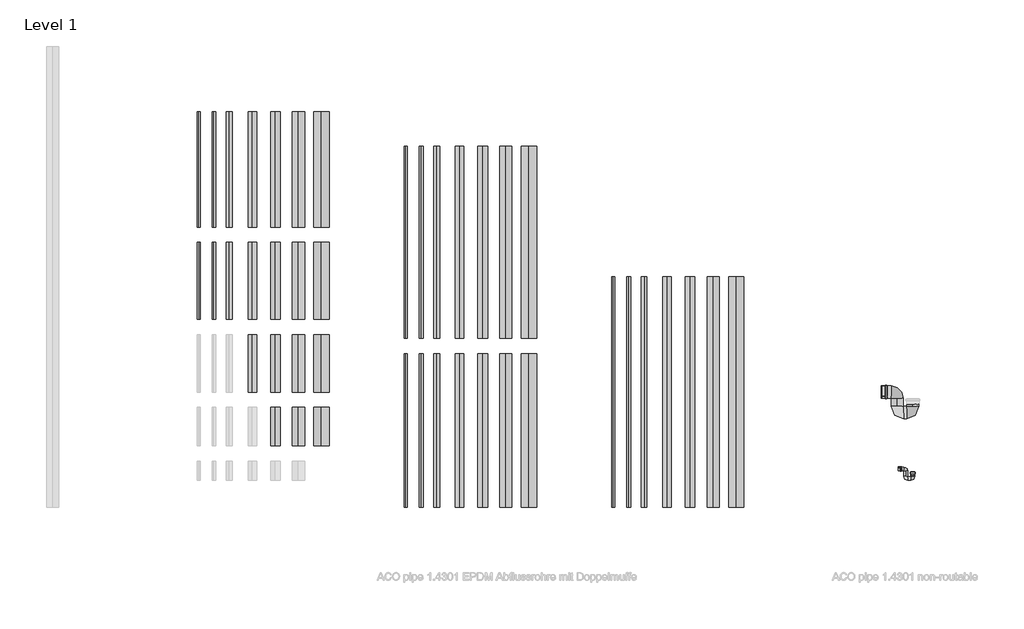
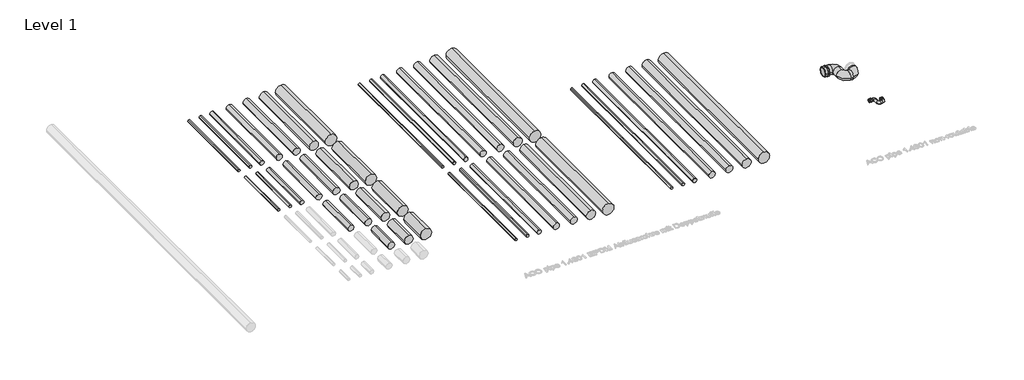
# One storey, part 8 of 13: 42 pipe segments, 5 pipe fittings.
"""IFC4 building model written with IfcOpenShell, lengths in millimetres."""

from ifc_helpers import new_model, si_unit, point, frame, frame_2d, origin, place, context, project, spatial, circle_curve, trimmed, segment, composite_curve, outline, extrude, transform, mapped, element, save
from components import pipe_fitting_1_4301_12527d9e, pipe_fitting_1_4301_4e6f8dee, std_nested_7f6e179d, std_nested_072c2150, std_nested_70f44cd0

model = new_model("IFC4")

# Units and contexts
model_context = context("Model", 3, world=origin())
ifc_project = project(units=[si_unit("LENGTHUNIT", "METRE", prefix="MILLI")], contexts=[model_context])

# Site, building, storey
site = spatial("IfcSite", under=ifc_project)
building = spatial("IfcBuilding", under=site)
storey = spatial("IfcBuildingStorey", under=building, Name="Level 1", Elevation=0.0)

# Pipe fittings
placement = place(None, origin())
pipe_fitting_1_4301_shape = pipe_fitting_1_4301_12527d9e(model_context)
element("IfcPipeFitting", 1, ObjectType="PIF_ST_UN_ACO pipe p-trap_ACO : 1.4301", at=placement, inside=storey, context=model_context, shape_type="MappedRepresentation", body=[
    mapped(pipe_fitting_1_4301_shape, transform((21621.7461061, 480.7885647, 0.0), x_axis=(1.0, 0.0, 0.0), y_axis=(0.0, 1.0, 0.0), z_axis=(0.0, 0.0, 1.0))),
])
pipe_fitting_1_4301_2_shape = pipe_fitting_1_4301_4e6f8dee(model_context)
element("IfcPipeFitting", 2, ObjectType="PIF_ST_UN_ACO pipe p-trap_ACO : 1.4301", at=placement, inside=storey, context=model_context, shape_type="MappedRepresentation", body=[
    mapped(pipe_fitting_1_4301_2_shape, transform((21621.7461061, 1480.7885647, 0.0), x_axis=(1.0, 0.0, 0.0), y_axis=(0.0, 1.0, 0.0), z_axis=(0.0, 0.0, 1.0))),
])
std_nested_shape = std_nested_7f6e179d(model_context)
element("IfcPipeFitting", 3, ObjectType="ZZZ_do not use_PIF_ST_UN_ACO pipe socket_ACO : std (nested)", at=placement, inside=storey, context=model_context, shape_type="MappedRepresentation", body=[
    mapped(std_nested_shape, transform((21434.7461061, 480.7885647, 0.0), x_axis=(-1.0, 0.0, 0.0), y_axis=(0.0, 1.0, 0.0), z_axis=(0.0, 0.0, -1.0))),
])
std_nested_2_shape = std_nested_072c2150(model_context)
element("IfcPipeFitting", 4, ObjectType="ZZZ_do not use_PIF_ST_UN_ACO pipe socket_ACO : std (nested)", at=placement, inside=storey, context=model_context, shape_type="MappedRepresentation", body=[
    mapped(std_nested_2_shape, transform((21621.7461061, 399.7885647, 0.0), x_axis=(0.0, 1.0, 0.0), y_axis=(1.0, 0.0, 0.0), z_axis=(0.0, 0.0, -1.0))),
])
std_nested_3_shape = std_nested_70f44cd0(model_context)
element("IfcPipeFitting", 5, ObjectType="ZZZ_do not use_PIF_ST_UN_ACO pipe socket_ACO : std (nested)", at=placement, inside=storey, context=model_context, shape_type="MappedRepresentation", body=[
    mapped(std_nested_3_shape, transform((21217.7461061, 1480.7885647, 0.0), x_axis=(-1.0, 0.0, 0.0), y_axis=(0.0, 1.0, 0.0), z_axis=(0.0, 0.0, -1.0))),
])

# Pipe segments
element("IfcPipeSegment", 6, ObjectType="ACO pipe 1.4301 OD (complex)", at=placement, inside=storey, context=model_context, shape_type="SweptSolid", body=[
    extrude(outline(composite_curve([segment(trimmed(circle_curve(frame_2d((0.0, 13321.7461061)), 62.5), [point((0.0, 13384.2461061))], [point((62.5, 13321.7461061))], False, "CARTESIAN"), True, "CONTINUOUS"), segment(trimmed(circle_curve(frame_2d((0.0, 13321.7461061)), 62.5), [point((62.5, 13321.7461061))], [point((0.0, 13259.2461061))], False, "CARTESIAN"), True, "CONTINUOUS"), segment(trimmed(circle_curve(frame_2d((0.0, 13321.7461061)), 62.5), [point((0.0, 13259.2461061))], [point((-62.5, 13321.7461061))], False, "CARTESIAN"), True, "CONTINUOUS"), segment(trimmed(circle_curve(frame_2d((0.0, 13321.7461061)), 62.5), [point((-62.5, 13321.7461061))], [point((0.0, 13384.2461061))], False, "CARTESIAN"), True, "CONTINUOUS")], self_intersect=False)), frame((0.0, 780.7885647, 0.0), z_axis=(0.0, 1.0, 0.0), x_axis=(0.0, 0.0, 1.0)), (0.0, 0.0, 1.0), 500.0),
])
element("IfcPipeSegment", 7, ObjectType="ACO pipe 1.4301 OD (complex)", at=placement, inside=storey, context=model_context, shape_type="SweptSolid", body=[
    extrude(outline(composite_curve([segment(trimmed(circle_curve(frame_2d((0.0, 13621.7461061)), 80.0), [point((0.0, 13701.7461061))], [point((80.0, 13621.7461061))], False, "CARTESIAN"), True, "CONTINUOUS"), segment(trimmed(circle_curve(frame_2d((0.0, 13621.7461061)), 80.0), [point((80.0, 13621.7461061))], [point((0.0, 13541.7461061))], False, "CARTESIAN"), True, "CONTINUOUS"), segment(trimmed(circle_curve(frame_2d((0.0, 13621.7461061)), 80.0), [point((0.0, 13541.7461061))], [point((-80.0, 13621.7461061))], False, "CARTESIAN"), True, "CONTINUOUS"), segment(trimmed(circle_curve(frame_2d((0.0, 13621.7461061)), 80.0), [point((-80.0, 13621.7461061))], [point((0.0, 13701.7461061))], False, "CARTESIAN"), True, "CONTINUOUS")], self_intersect=False)), frame((0.0, 780.7885647, 0.0), z_axis=(0.0, 1.0, 0.0), x_axis=(0.0, 0.0, 1.0)), (0.0, 0.0, 1.0), 500.0),
])
element("IfcPipeSegment", 8, ObjectType="ACO pipe 1.4301 OD (complex)", at=placement, inside=storey, context=model_context, shape_type="SweptSolid", body=[
    extrude(outline(composite_curve([segment(trimmed(circle_curve(frame_2d((0.0, 13921.7461061)), 100.0), [point((0.0, 14021.7461061))], [point((100.0, 13921.7461061))], False, "CARTESIAN"), True, "CONTINUOUS"), segment(trimmed(circle_curve(frame_2d((0.0, 13921.7461061)), 100.0), [point((100.0, 13921.7461061))], [point((0.0, 13821.7461061))], False, "CARTESIAN"), True, "CONTINUOUS"), segment(trimmed(circle_curve(frame_2d((0.0, 13921.7461061)), 100.0), [point((0.0, 13821.7461061))], [point((-100.0, 13921.7461061))], False, "CARTESIAN"), True, "CONTINUOUS"), segment(trimmed(circle_curve(frame_2d((0.0, 13921.7461061)), 100.0), [point((-100.0, 13921.7461061))], [point((0.0, 14021.7461061))], False, "CARTESIAN"), True, "CONTINUOUS")], self_intersect=False)), frame((0.0, 780.7885647, 0.0), z_axis=(0.0, 1.0, 0.0), x_axis=(0.0, 0.0, 1.0)), (0.0, 0.0, 1.0), 500.0),
])
element("IfcPipeSegment", 9, ObjectType="ACO pipe 1.4301 OD (complex)", at=placement, inside=storey, context=model_context, shape_type="SweptSolid", body=[
    extrude(outline(composite_curve([segment(trimmed(circle_curve(frame_2d((0.0, 13021.7461061)), 55.0), [point((0.0, 13076.7461061))], [point((55.0, 13021.7461061))], False, "CARTESIAN"), True, "CONTINUOUS"), segment(trimmed(circle_curve(frame_2d((0.0, 13021.7461061)), 55.0), [point((55.0, 13021.7461061))], [point((0.0, 12966.7461061))], False, "CARTESIAN"), True, "CONTINUOUS"), segment(trimmed(circle_curve(frame_2d((0.0, 13021.7461061)), 55.0), [point((0.0, 12966.7461061))], [point((-55.0, 13021.7461061))], False, "CARTESIAN"), True, "CONTINUOUS"), segment(trimmed(circle_curve(frame_2d((0.0, 13021.7461061)), 55.0), [point((-55.0, 13021.7461061))], [point((0.0, 13076.7461061))], False, "CARTESIAN"), True, "CONTINUOUS")], self_intersect=False)), frame((0.0, 1480.7885647, 0.0), z_axis=(0.0, 1.0, 0.0), x_axis=(0.0, 0.0, 1.0)), (0.0, 0.0, 1.0), 750.0),
])
element("IfcPipeSegment", 10, ObjectType="ACO pipe 1.4301 OD (complex)", at=placement, inside=storey, context=model_context, shape_type="SweptSolid", body=[
    extrude(outline(composite_curve([segment(trimmed(circle_curve(frame_2d((0.0, 13321.7461061)), 62.5), [point((0.0, 13384.2461061))], [point((62.5, 13321.7461061))], False, "CARTESIAN"), True, "CONTINUOUS"), segment(trimmed(circle_curve(frame_2d((0.0, 13321.7461061)), 62.5), [point((62.5, 13321.7461061))], [point((0.0, 13259.2461061))], False, "CARTESIAN"), True, "CONTINUOUS"), segment(trimmed(circle_curve(frame_2d((0.0, 13321.7461061)), 62.5), [point((0.0, 13259.2461061))], [point((-62.5, 13321.7461061))], False, "CARTESIAN"), True, "CONTINUOUS"), segment(trimmed(circle_curve(frame_2d((0.0, 13321.7461061)), 62.5), [point((-62.5, 13321.7461061))], [point((0.0, 13384.2461061))], False, "CARTESIAN"), True, "CONTINUOUS")], self_intersect=False)), frame((0.0, 1480.7885647, 0.0), z_axis=(0.0, 1.0, 0.0), x_axis=(0.0, 0.0, 1.0)), (0.0, 0.0, 1.0), 750.0),
])
element("IfcPipeSegment", 11, ObjectType="ACO pipe 1.4301 OD (complex)", at=placement, inside=storey, context=model_context, shape_type="SweptSolid", body=[
    extrude(outline(composite_curve([segment(trimmed(circle_curve(frame_2d((0.0, 13621.7461061)), 80.0), [point((0.0, 13701.7461061))], [point((80.0, 13621.7461061))], False, "CARTESIAN"), True, "CONTINUOUS"), segment(trimmed(circle_curve(frame_2d((0.0, 13621.7461061)), 80.0), [point((80.0, 13621.7461061))], [point((0.0, 13541.7461061))], False, "CARTESIAN"), True, "CONTINUOUS"), segment(trimmed(circle_curve(frame_2d((0.0, 13621.7461061)), 80.0), [point((0.0, 13541.7461061))], [point((-80.0, 13621.7461061))], False, "CARTESIAN"), True, "CONTINUOUS"), segment(trimmed(circle_curve(frame_2d((0.0, 13621.7461061)), 80.0), [point((-80.0, 13621.7461061))], [point((0.0, 13701.7461061))], False, "CARTESIAN"), True, "CONTINUOUS")], self_intersect=False)), frame((0.0, 1480.7885647, 0.0), z_axis=(0.0, 1.0, 0.0), x_axis=(0.0, 0.0, 1.0)), (0.0, 0.0, 1.0), 750.0),
])
element("IfcPipeSegment", 12, ObjectType="ACO pipe 1.4301 OD (complex)", at=placement, inside=storey, context=model_context, shape_type="SweptSolid", body=[
    extrude(outline(composite_curve([segment(trimmed(circle_curve(frame_2d((0.0, 13921.7461061)), 100.0), [point((0.0, 14021.7461061))], [point((100.0, 13921.7461061))], False, "CARTESIAN"), True, "CONTINUOUS"), segment(trimmed(circle_curve(frame_2d((0.0, 13921.7461061)), 100.0), [point((100.0, 13921.7461061))], [point((0.0, 13821.7461061))], False, "CARTESIAN"), True, "CONTINUOUS"), segment(trimmed(circle_curve(frame_2d((0.0, 13921.7461061)), 100.0), [point((0.0, 13821.7461061))], [point((-100.0, 13921.7461061))], False, "CARTESIAN"), True, "CONTINUOUS"), segment(trimmed(circle_curve(frame_2d((0.0, 13921.7461061)), 100.0), [point((-100.0, 13921.7461061))], [point((0.0, 14021.7461061))], False, "CARTESIAN"), True, "CONTINUOUS")], self_intersect=False)), frame((0.0, 1480.7885647, 0.0), z_axis=(0.0, 1.0, 0.0), x_axis=(0.0, 0.0, 1.0)), (0.0, 0.0, 1.0), 750.0),
])
element("IfcPipeSegment", 13, ObjectType="ACO pipe 1.4301 OD (complex)", at=placement, inside=storey, context=model_context, shape_type="SweptSolid", body=[
    extrude(outline(composite_curve([segment(trimmed(circle_curve(frame_2d((0.0, 12321.7461061)), 20.0), [point((0.0, 12341.7461061))], [point((20.0, 12321.7461061))], False, "CARTESIAN"), True, "CONTINUOUS"), segment(trimmed(circle_curve(frame_2d((0.0, 12321.7461061)), 20.0), [point((20.0, 12321.7461061))], [point((0.0, 12301.7461061))], False, "CARTESIAN"), True, "CONTINUOUS"), segment(trimmed(circle_curve(frame_2d((0.0, 12321.7461061)), 20.0), [point((0.0, 12301.7461061))], [point((-20.0, 12321.7461061))], False, "CARTESIAN"), True, "CONTINUOUS"), segment(trimmed(circle_curve(frame_2d((0.0, 12321.7461061)), 20.0), [point((-20.0, 12321.7461061))], [point((0.0, 12341.7461061))], False, "CARTESIAN"), True, "CONTINUOUS")], self_intersect=False)), frame((0.0, 2430.7885647, 0.0), z_axis=(0.0, 1.0, 0.0), x_axis=(0.0, 0.0, 1.0)), (0.0, 0.0, 1.0), 1000.0),
])
element("IfcPipeSegment", 14, ObjectType="ACO pipe 1.4301 OD (complex)", at=placement, inside=storey, context=model_context, shape_type="SweptSolid", body=[
    extrude(outline(composite_curve([segment(trimmed(circle_curve(frame_2d((0.0, 12521.7461061)), 25.0), [point((0.0, 12546.7461061))], [point((25.0, 12521.7461061))], False, "CARTESIAN"), True, "CONTINUOUS"), segment(trimmed(circle_curve(frame_2d((0.0, 12521.7461061)), 25.0), [point((25.0, 12521.7461061))], [point((0.0, 12496.7461061))], False, "CARTESIAN"), True, "CONTINUOUS"), segment(trimmed(circle_curve(frame_2d((0.0, 12521.7461061)), 25.0), [point((0.0, 12496.7461061))], [point((-25.0, 12521.7461061))], False, "CARTESIAN"), True, "CONTINUOUS"), segment(trimmed(circle_curve(frame_2d((0.0, 12521.7461061)), 25.0), [point((-25.0, 12521.7461061))], [point((0.0, 12546.7461061))], False, "CARTESIAN"), True, "CONTINUOUS")], self_intersect=False)), frame((0.0, 2430.7885647, 0.0), z_axis=(0.0, 1.0, 0.0), x_axis=(0.0, 0.0, 1.0)), (0.0, 0.0, 1.0), 1000.0),
])
element("IfcPipeSegment", 15, ObjectType="ACO pipe 1.4301 OD (complex)", at=placement, inside=storey, context=model_context, shape_type="SweptSolid", body=[
    extrude(outline(composite_curve([segment(trimmed(circle_curve(frame_2d((0.0, 12721.7461061)), 37.5), [point((0.0, 12759.2461061))], [point((37.5, 12721.7461061))], False, "CARTESIAN"), True, "CONTINUOUS"), segment(trimmed(circle_curve(frame_2d((0.0, 12721.7461061)), 37.5), [point((37.5, 12721.7461061))], [point((0.0, 12684.2461061))], False, "CARTESIAN"), True, "CONTINUOUS"), segment(trimmed(circle_curve(frame_2d((0.0, 12721.7461061)), 37.5), [point((0.0, 12684.2461061))], [point((-37.5, 12721.7461061))], False, "CARTESIAN"), True, "CONTINUOUS"), segment(trimmed(circle_curve(frame_2d((0.0, 12721.7461061)), 37.5), [point((-37.5, 12721.7461061))], [point((0.0, 12759.2461061))], False, "CARTESIAN"), True, "CONTINUOUS")], self_intersect=False)), frame((0.0, 2430.7885647, 0.0), z_axis=(0.0, 1.0, 0.0), x_axis=(0.0, 0.0, 1.0)), (0.0, 0.0, 1.0), 1000.0),
])
element("IfcPipeSegment", 16, ObjectType="ACO pipe 1.4301 OD (complex)", at=placement, inside=storey, context=model_context, shape_type="SweptSolid", body=[
    extrude(outline(composite_curve([segment(trimmed(circle_curve(frame_2d((0.0, 13021.7461061)), 55.0), [point((0.0, 13076.7461061))], [point((55.0, 13021.7461061))], False, "CARTESIAN"), True, "CONTINUOUS"), segment(trimmed(circle_curve(frame_2d((0.0, 13021.7461061)), 55.0), [point((55.0, 13021.7461061))], [point((0.0, 12966.7461061))], False, "CARTESIAN"), True, "CONTINUOUS"), segment(trimmed(circle_curve(frame_2d((0.0, 13021.7461061)), 55.0), [point((0.0, 12966.7461061))], [point((-55.0, 13021.7461061))], False, "CARTESIAN"), True, "CONTINUOUS"), segment(trimmed(circle_curve(frame_2d((0.0, 13021.7461061)), 55.0), [point((-55.0, 13021.7461061))], [point((0.0, 13076.7461061))], False, "CARTESIAN"), True, "CONTINUOUS")], self_intersect=False)), frame((0.0, 2430.7885647, 0.0), z_axis=(0.0, 1.0, 0.0), x_axis=(0.0, 0.0, 1.0)), (0.0, 0.0, 1.0), 1000.0),
])
element("IfcPipeSegment", 17, ObjectType="ACO pipe 1.4301 OD (complex)", at=placement, inside=storey, context=model_context, shape_type="SweptSolid", body=[
    extrude(outline(composite_curve([segment(trimmed(circle_curve(frame_2d((0.0, 13321.7461061)), 62.5), [point((0.0, 13384.2461061))], [point((62.5, 13321.7461061))], False, "CARTESIAN"), True, "CONTINUOUS"), segment(trimmed(circle_curve(frame_2d((0.0, 13321.7461061)), 62.5), [point((62.5, 13321.7461061))], [point((0.0, 13259.2461061))], False, "CARTESIAN"), True, "CONTINUOUS"), segment(trimmed(circle_curve(frame_2d((0.0, 13321.7461061)), 62.5), [point((0.0, 13259.2461061))], [point((-62.5, 13321.7461061))], False, "CARTESIAN"), True, "CONTINUOUS"), segment(trimmed(circle_curve(frame_2d((0.0, 13321.7461061)), 62.5), [point((-62.5, 13321.7461061))], [point((0.0, 13384.2461061))], False, "CARTESIAN"), True, "CONTINUOUS")], self_intersect=False)), frame((0.0, 2430.7885647, 0.0), z_axis=(0.0, 1.0, 0.0), x_axis=(0.0, 0.0, 1.0)), (0.0, 0.0, 1.0), 1000.0),
])
element("IfcPipeSegment", 18, ObjectType="ACO pipe 1.4301 OD (complex)", at=placement, inside=storey, context=model_context, shape_type="SweptSolid", body=[
    extrude(outline(composite_curve([segment(trimmed(circle_curve(frame_2d((0.0, 13621.7461061)), 80.0), [point((0.0, 13701.7461061))], [point((80.0, 13621.7461061))], False, "CARTESIAN"), True, "CONTINUOUS"), segment(trimmed(circle_curve(frame_2d((0.0, 13621.7461061)), 80.0), [point((80.0, 13621.7461061))], [point((0.0, 13541.7461061))], False, "CARTESIAN"), True, "CONTINUOUS"), segment(trimmed(circle_curve(frame_2d((0.0, 13621.7461061)), 80.0), [point((0.0, 13541.7461061))], [point((-80.0, 13621.7461061))], False, "CARTESIAN"), True, "CONTINUOUS"), segment(trimmed(circle_curve(frame_2d((0.0, 13621.7461061)), 80.0), [point((-80.0, 13621.7461061))], [point((0.0, 13701.7461061))], False, "CARTESIAN"), True, "CONTINUOUS")], self_intersect=False)), frame((0.0, 2430.7885647, 0.0), z_axis=(0.0, 1.0, 0.0), x_axis=(0.0, 0.0, 1.0)), (0.0, 0.0, 1.0), 1000.0),
])
element("IfcPipeSegment", 19, ObjectType="ACO pipe 1.4301 OD (complex)", at=placement, inside=storey, context=model_context, shape_type="SweptSolid", body=[
    extrude(outline(composite_curve([segment(trimmed(circle_curve(frame_2d((0.0, 13921.7461061)), 100.0), [point((0.0, 14021.7461061))], [point((100.0, 13921.7461061))], False, "CARTESIAN"), True, "CONTINUOUS"), segment(trimmed(circle_curve(frame_2d((0.0, 13921.7461061)), 100.0), [point((100.0, 13921.7461061))], [point((0.0, 13821.7461061))], False, "CARTESIAN"), True, "CONTINUOUS"), segment(trimmed(circle_curve(frame_2d((0.0, 13921.7461061)), 100.0), [point((0.0, 13821.7461061))], [point((-100.0, 13921.7461061))], False, "CARTESIAN"), True, "CONTINUOUS"), segment(trimmed(circle_curve(frame_2d((0.0, 13921.7461061)), 100.0), [point((-100.0, 13921.7461061))], [point((0.0, 14021.7461061))], False, "CARTESIAN"), True, "CONTINUOUS")], self_intersect=False)), frame((0.0, 2430.7885647, 0.0), z_axis=(0.0, 1.0, 0.0), x_axis=(0.0, 0.0, 1.0)), (0.0, 0.0, 1.0), 1000.0),
])
element("IfcPipeSegment", 20, ObjectType="ACO pipe 1.4301 OD (complex)", at=placement, inside=storey, context=model_context, shape_type="SweptSolid", body=[
    extrude(outline(composite_curve([segment(trimmed(circle_curve(frame_2d((0.0, 12321.7461061)), 20.0), [point((0.0, 12341.7461061))], [point((20.0, 12321.7461061))], False, "CARTESIAN"), True, "CONTINUOUS"), segment(trimmed(circle_curve(frame_2d((0.0, 12321.7461061)), 20.0), [point((20.0, 12321.7461061))], [point((0.0, 12301.7461061))], False, "CARTESIAN"), True, "CONTINUOUS"), segment(trimmed(circle_curve(frame_2d((0.0, 12321.7461061)), 20.0), [point((0.0, 12301.7461061))], [point((-20.0, 12321.7461061))], False, "CARTESIAN"), True, "CONTINUOUS"), segment(trimmed(circle_curve(frame_2d((0.0, 12321.7461061)), 20.0), [point((-20.0, 12321.7461061))], [point((0.0, 12341.7461061))], False, "CARTESIAN"), True, "CONTINUOUS")], self_intersect=False)), frame((0.0, 3630.7885647, 0.0), z_axis=(0.0, 1.0, 0.0), x_axis=(0.0, 0.0, 1.0)), (0.0, 0.0, 1.0), 1500.0),
])
element("IfcPipeSegment", 21, ObjectType="ACO pipe 1.4301 OD (complex)", at=placement, inside=storey, context=model_context, shape_type="SweptSolid", body=[
    extrude(outline(composite_curve([segment(trimmed(circle_curve(frame_2d((0.0, 12521.7461061)), 25.0), [point((0.0, 12546.7461061))], [point((25.0, 12521.7461061))], False, "CARTESIAN"), True, "CONTINUOUS"), segment(trimmed(circle_curve(frame_2d((0.0, 12521.7461061)), 25.0), [point((25.0, 12521.7461061))], [point((0.0, 12496.7461061))], False, "CARTESIAN"), True, "CONTINUOUS"), segment(trimmed(circle_curve(frame_2d((0.0, 12521.7461061)), 25.0), [point((0.0, 12496.7461061))], [point((-25.0, 12521.7461061))], False, "CARTESIAN"), True, "CONTINUOUS"), segment(trimmed(circle_curve(frame_2d((0.0, 12521.7461061)), 25.0), [point((-25.0, 12521.7461061))], [point((0.0, 12546.7461061))], False, "CARTESIAN"), True, "CONTINUOUS")], self_intersect=False)), frame((0.0, 3630.7885647, 0.0), z_axis=(0.0, 1.0, 0.0), x_axis=(0.0, 0.0, 1.0)), (0.0, 0.0, 1.0), 1500.0),
])
element("IfcPipeSegment", 22, ObjectType="ACO pipe 1.4301 OD (complex)", at=placement, inside=storey, context=model_context, shape_type="SweptSolid", body=[
    extrude(outline(composite_curve([segment(trimmed(circle_curve(frame_2d((0.0, 12721.7461061)), 37.5), [point((0.0, 12759.2461061))], [point((37.5, 12721.7461061))], False, "CARTESIAN"), True, "CONTINUOUS"), segment(trimmed(circle_curve(frame_2d((0.0, 12721.7461061)), 37.5), [point((37.5, 12721.7461061))], [point((0.0, 12684.2461061))], False, "CARTESIAN"), True, "CONTINUOUS"), segment(trimmed(circle_curve(frame_2d((0.0, 12721.7461061)), 37.5), [point((0.0, 12684.2461061))], [point((-37.5, 12721.7461061))], False, "CARTESIAN"), True, "CONTINUOUS"), segment(trimmed(circle_curve(frame_2d((0.0, 12721.7461061)), 37.5), [point((-37.5, 12721.7461061))], [point((0.0, 12759.2461061))], False, "CARTESIAN"), True, "CONTINUOUS")], self_intersect=False)), frame((0.0, 3630.7885647, 0.0), z_axis=(0.0, 1.0, 0.0), x_axis=(0.0, 0.0, 1.0)), (0.0, 0.0, 1.0), 1500.0),
])
element("IfcPipeSegment", 23, ObjectType="ACO pipe 1.4301 OD (complex)", at=placement, inside=storey, context=model_context, shape_type="SweptSolid", body=[
    extrude(outline(composite_curve([segment(trimmed(circle_curve(frame_2d((0.0, 13021.7461061)), 55.0), [point((0.0, 13076.7461061))], [point((55.0, 13021.7461061))], False, "CARTESIAN"), True, "CONTINUOUS"), segment(trimmed(circle_curve(frame_2d((0.0, 13021.7461061)), 55.0), [point((55.0, 13021.7461061))], [point((0.0, 12966.7461061))], False, "CARTESIAN"), True, "CONTINUOUS"), segment(trimmed(circle_curve(frame_2d((0.0, 13021.7461061)), 55.0), [point((0.0, 12966.7461061))], [point((-55.0, 13021.7461061))], False, "CARTESIAN"), True, "CONTINUOUS"), segment(trimmed(circle_curve(frame_2d((0.0, 13021.7461061)), 55.0), [point((-55.0, 13021.7461061))], [point((0.0, 13076.7461061))], False, "CARTESIAN"), True, "CONTINUOUS")], self_intersect=False)), frame((0.0, 3630.7885647, 0.0), z_axis=(0.0, 1.0, 0.0), x_axis=(0.0, 0.0, 1.0)), (0.0, 0.0, 1.0), 1500.0),
])
element("IfcPipeSegment", 24, ObjectType="ACO pipe 1.4301 OD (complex)", at=placement, inside=storey, context=model_context, shape_type="SweptSolid", body=[
    extrude(outline(composite_curve([segment(trimmed(circle_curve(frame_2d((0.0, 13321.7461061)), 62.5), [point((0.0, 13384.2461061))], [point((62.5, 13321.7461061))], False, "CARTESIAN"), True, "CONTINUOUS"), segment(trimmed(circle_curve(frame_2d((0.0, 13321.7461061)), 62.5), [point((62.5, 13321.7461061))], [point((0.0, 13259.2461061))], False, "CARTESIAN"), True, "CONTINUOUS"), segment(trimmed(circle_curve(frame_2d((0.0, 13321.7461061)), 62.5), [point((0.0, 13259.2461061))], [point((-62.5, 13321.7461061))], False, "CARTESIAN"), True, "CONTINUOUS"), segment(trimmed(circle_curve(frame_2d((0.0, 13321.7461061)), 62.5), [point((-62.5, 13321.7461061))], [point((0.0, 13384.2461061))], False, "CARTESIAN"), True, "CONTINUOUS")], self_intersect=False)), frame((0.0, 3630.7885647, 0.0), z_axis=(0.0, 1.0, 0.0), x_axis=(0.0, 0.0, 1.0)), (0.0, 0.0, 1.0), 1500.0),
])
element("IfcPipeSegment", 25, ObjectType="ACO pipe 1.4301 OD (complex)", at=placement, inside=storey, context=model_context, shape_type="SweptSolid", body=[
    extrude(outline(composite_curve([segment(trimmed(circle_curve(frame_2d((0.0, 13621.7461061)), 80.0), [point((0.0, 13701.7461061))], [point((80.0, 13621.7461061))], False, "CARTESIAN"), True, "CONTINUOUS"), segment(trimmed(circle_curve(frame_2d((0.0, 13621.7461061)), 80.0), [point((80.0, 13621.7461061))], [point((0.0, 13541.7461061))], False, "CARTESIAN"), True, "CONTINUOUS"), segment(trimmed(circle_curve(frame_2d((0.0, 13621.7461061)), 80.0), [point((0.0, 13541.7461061))], [point((-80.0, 13621.7461061))], False, "CARTESIAN"), True, "CONTINUOUS"), segment(trimmed(circle_curve(frame_2d((0.0, 13621.7461061)), 80.0), [point((-80.0, 13621.7461061))], [point((0.0, 13701.7461061))], False, "CARTESIAN"), True, "CONTINUOUS")], self_intersect=False)), frame((0.0, 3630.7885647, 0.0), z_axis=(0.0, 1.0, 0.0), x_axis=(0.0, 0.0, 1.0)), (0.0, 0.0, 1.0), 1500.0),
])
element("IfcPipeSegment", 26, ObjectType="ACO pipe 1.4301 OD (complex)", at=placement, inside=storey, context=model_context, shape_type="SweptSolid", body=[
    extrude(outline(composite_curve([segment(trimmed(circle_curve(frame_2d((0.0, 13921.7461061)), 100.0), [point((0.0, 14021.7461061))], [point((100.0, 13921.7461061))], False, "CARTESIAN"), True, "CONTINUOUS"), segment(trimmed(circle_curve(frame_2d((0.0, 13921.7461061)), 100.0), [point((100.0, 13921.7461061))], [point((0.0, 13821.7461061))], False, "CARTESIAN"), True, "CONTINUOUS"), segment(trimmed(circle_curve(frame_2d((0.0, 13921.7461061)), 100.0), [point((0.0, 13821.7461061))], [point((-100.0, 13921.7461061))], False, "CARTESIAN"), True, "CONTINUOUS"), segment(trimmed(circle_curve(frame_2d((0.0, 13921.7461061)), 100.0), [point((-100.0, 13921.7461061))], [point((0.0, 14021.7461061))], False, "CARTESIAN"), True, "CONTINUOUS")], self_intersect=False)), frame((0.0, 3630.7885647, 0.0), z_axis=(0.0, 1.0, 0.0), x_axis=(0.0, 0.0, 1.0)), (0.0, 0.0, 1.0), 1500.0),
])
element("IfcPipeSegment", 27, ObjectType="ACO pipe 1.4301 OD (complex)", at=placement, inside=storey, context=model_context, shape_type="SweptSolid", body=[
    extrude(outline(composite_curve([segment(trimmed(circle_curve(frame_2d((0.0, 15021.7461061)), 20.0), [point((0.0, 15041.7461061))], [point((20.0, 15021.7461061))], False, "CARTESIAN"), True, "CONTINUOUS"), segment(trimmed(circle_curve(frame_2d((0.0, 15021.7461061)), 20.0), [point((20.0, 15021.7461061))], [point((0.0, 15001.7461061))], False, "CARTESIAN"), True, "CONTINUOUS"), segment(trimmed(circle_curve(frame_2d((0.0, 15021.7461061)), 20.0), [point((0.0, 15001.7461061))], [point((-20.0, 15021.7461061))], False, "CARTESIAN"), True, "CONTINUOUS"), segment(trimmed(circle_curve(frame_2d((0.0, 15021.7461061)), 20.0), [point((-20.0, 15021.7461061))], [point((0.0, 15041.7461061))], False, "CARTESIAN"), True, "CONTINUOUS")], self_intersect=False)), frame((0.0, -19.2114353, 0.0), z_axis=(0.0, 1.0, 0.0), x_axis=(0.0, 0.0, 1.0)), (0.0, 0.0, 1.0), 2000.0),
])
element("IfcPipeSegment", 28, ObjectType="ACO pipe 1.4301 OD (complex)", at=placement, inside=storey, context=model_context, shape_type="SweptSolid", body=[
    extrude(outline(composite_curve([segment(trimmed(circle_curve(frame_2d((0.0, 15221.7461061)), 25.0), [point((0.0, 15246.7461061))], [point((25.0, 15221.7461061))], False, "CARTESIAN"), True, "CONTINUOUS"), segment(trimmed(circle_curve(frame_2d((0.0, 15221.7461061)), 25.0), [point((25.0, 15221.7461061))], [point((0.0, 15196.7461061))], False, "CARTESIAN"), True, "CONTINUOUS"), segment(trimmed(circle_curve(frame_2d((0.0, 15221.7461061)), 25.0), [point((0.0, 15196.7461061))], [point((-25.0, 15221.7461061))], False, "CARTESIAN"), True, "CONTINUOUS"), segment(trimmed(circle_curve(frame_2d((0.0, 15221.7461061)), 25.0), [point((-25.0, 15221.7461061))], [point((0.0, 15246.7461061))], False, "CARTESIAN"), True, "CONTINUOUS")], self_intersect=False)), frame((0.0, -19.2114353, 0.0), z_axis=(0.0, 1.0, 0.0), x_axis=(0.0, 0.0, 1.0)), (0.0, 0.0, 1.0), 2000.0),
])
element("IfcPipeSegment", 29, ObjectType="ACO pipe 1.4301 OD (complex)", at=placement, inside=storey, context=model_context, shape_type="SweptSolid", body=[
    extrude(outline(composite_curve([segment(trimmed(circle_curve(frame_2d((0.0, 15421.7461061)), 37.5), [point((0.0, 15459.2461061))], [point((37.5, 15421.7461061))], False, "CARTESIAN"), True, "CONTINUOUS"), segment(trimmed(circle_curve(frame_2d((0.0, 15421.7461061)), 37.5), [point((37.5, 15421.7461061))], [point((0.0, 15384.2461061))], False, "CARTESIAN"), True, "CONTINUOUS"), segment(trimmed(circle_curve(frame_2d((0.0, 15421.7461061)), 37.5), [point((0.0, 15384.2461061))], [point((-37.5, 15421.7461061))], False, "CARTESIAN"), True, "CONTINUOUS"), segment(trimmed(circle_curve(frame_2d((0.0, 15421.7461061)), 37.5), [point((-37.5, 15421.7461061))], [point((0.0, 15459.2461061))], False, "CARTESIAN"), True, "CONTINUOUS")], self_intersect=False)), frame((0.0, -19.2114353, 0.0), z_axis=(0.0, 1.0, 0.0), x_axis=(0.0, 0.0, 1.0)), (0.0, 0.0, 1.0), 2000.0),
])
element("IfcPipeSegment", 30, ObjectType="ACO pipe 1.4301 OD (complex)", at=placement, inside=storey, context=model_context, shape_type="SweptSolid", body=[
    extrude(outline(composite_curve([segment(trimmed(circle_curve(frame_2d((0.0, 15721.7461061)), 55.0), [point((0.0, 15776.7461061))], [point((55.0, 15721.7461061))], False, "CARTESIAN"), True, "CONTINUOUS"), segment(trimmed(circle_curve(frame_2d((0.0, 15721.7461061)), 55.0), [point((55.0, 15721.7461061))], [point((0.0, 15666.7461061))], False, "CARTESIAN"), True, "CONTINUOUS"), segment(trimmed(circle_curve(frame_2d((0.0, 15721.7461061)), 55.0), [point((0.0, 15666.7461061))], [point((-55.0, 15721.7461061))], False, "CARTESIAN"), True, "CONTINUOUS"), segment(trimmed(circle_curve(frame_2d((0.0, 15721.7461061)), 55.0), [point((-55.0, 15721.7461061))], [point((0.0, 15776.7461061))], False, "CARTESIAN"), True, "CONTINUOUS")], self_intersect=False)), frame((0.0, -19.2114353, 0.0), z_axis=(0.0, 1.0, 0.0), x_axis=(0.0, 0.0, 1.0)), (0.0, 0.0, 1.0), 2000.0),
])
element("IfcPipeSegment", 31, ObjectType="ACO pipe 1.4301 OD (complex)", at=placement, inside=storey, context=model_context, shape_type="SweptSolid", body=[
    extrude(outline(composite_curve([segment(trimmed(circle_curve(frame_2d((0.0, 16021.7461061)), 62.5), [point((0.0, 16084.2461061))], [point((62.5, 16021.7461061))], False, "CARTESIAN"), True, "CONTINUOUS"), segment(trimmed(circle_curve(frame_2d((0.0, 16021.7461061)), 62.5), [point((62.5, 16021.7461061))], [point((0.0, 15959.2461061))], False, "CARTESIAN"), True, "CONTINUOUS"), segment(trimmed(circle_curve(frame_2d((0.0, 16021.7461061)), 62.5), [point((0.0, 15959.2461061))], [point((-62.5, 16021.7461061))], False, "CARTESIAN"), True, "CONTINUOUS"), segment(trimmed(circle_curve(frame_2d((0.0, 16021.7461061)), 62.5), [point((-62.5, 16021.7461061))], [point((0.0, 16084.2461061))], False, "CARTESIAN"), True, "CONTINUOUS")], self_intersect=False)), frame((0.0, -19.2114353, 0.0), z_axis=(0.0, 1.0, 0.0), x_axis=(0.0, 0.0, 1.0)), (0.0, 0.0, 1.0), 2000.0),
])
element("IfcPipeSegment", 32, ObjectType="ACO pipe 1.4301 OD (complex)", at=placement, inside=storey, context=model_context, shape_type="SweptSolid", body=[
    extrude(outline(composite_curve([segment(trimmed(circle_curve(frame_2d((0.0, 16321.7461061)), 80.0), [point((0.0, 16401.7461061))], [point((80.0, 16321.7461061))], False, "CARTESIAN"), True, "CONTINUOUS"), segment(trimmed(circle_curve(frame_2d((0.0, 16321.7461061)), 80.0), [point((80.0, 16321.7461061))], [point((0.0, 16241.7461061))], False, "CARTESIAN"), True, "CONTINUOUS"), segment(trimmed(circle_curve(frame_2d((0.0, 16321.7461061)), 80.0), [point((0.0, 16241.7461061))], [point((-80.0, 16321.7461061))], False, "CARTESIAN"), True, "CONTINUOUS"), segment(trimmed(circle_curve(frame_2d((0.0, 16321.7461061)), 80.0), [point((-80.0, 16321.7461061))], [point((0.0, 16401.7461061))], False, "CARTESIAN"), True, "CONTINUOUS")], self_intersect=False)), frame((0.0, -19.2114353, 0.0), z_axis=(0.0, 1.0, 0.0), x_axis=(0.0, 0.0, 1.0)), (0.0, 0.0, 1.0), 2000.0),
])
element("IfcPipeSegment", 33, ObjectType="ACO pipe 1.4301 OD (complex)", at=placement, inside=storey, context=model_context, shape_type="SweptSolid", body=[
    extrude(outline(composite_curve([segment(trimmed(circle_curve(frame_2d((0.0, 16621.7461061)), 100.0), [point((0.0, 16721.7461061))], [point((100.0, 16621.7461061))], False, "CARTESIAN"), True, "CONTINUOUS"), segment(trimmed(circle_curve(frame_2d((0.0, 16621.7461061)), 100.0), [point((100.0, 16621.7461061))], [point((0.0, 16521.7461061))], False, "CARTESIAN"), True, "CONTINUOUS"), segment(trimmed(circle_curve(frame_2d((0.0, 16621.7461061)), 100.0), [point((0.0, 16521.7461061))], [point((-100.0, 16621.7461061))], False, "CARTESIAN"), True, "CONTINUOUS"), segment(trimmed(circle_curve(frame_2d((0.0, 16621.7461061)), 100.0), [point((-100.0, 16621.7461061))], [point((0.0, 16721.7461061))], False, "CARTESIAN"), True, "CONTINUOUS")], self_intersect=False)), frame((0.0, -19.2114353, 0.0), z_axis=(0.0, 1.0, 0.0), x_axis=(0.0, 0.0, 1.0)), (0.0, 0.0, 1.0), 2000.0),
])
element("IfcPipeSegment", 34, ObjectType="ACO pipe 1.4301 OD (complex)", at=placement, inside=storey, context=model_context, shape_type="SweptSolid", body=[
    extrude(outline(composite_curve([segment(trimmed(circle_curve(frame_2d((0.0, 15021.7461061)), 20.0), [point((0.0, 15041.7461061))], [point((20.0, 15021.7461061))], False, "CARTESIAN"), True, "CONTINUOUS"), segment(trimmed(circle_curve(frame_2d((0.0, 15021.7461061)), 20.0), [point((20.0, 15021.7461061))], [point((0.0, 15001.7461061))], False, "CARTESIAN"), True, "CONTINUOUS"), segment(trimmed(circle_curve(frame_2d((0.0, 15021.7461061)), 20.0), [point((0.0, 15001.7461061))], [point((-20.0, 15021.7461061))], False, "CARTESIAN"), True, "CONTINUOUS"), segment(trimmed(circle_curve(frame_2d((0.0, 15021.7461061)), 20.0), [point((-20.0, 15021.7461061))], [point((0.0, 15041.7461061))], False, "CARTESIAN"), True, "CONTINUOUS")], self_intersect=False)), frame((0.0, 2180.7885647, 0.0), z_axis=(0.0, 1.0, 0.0), x_axis=(0.0, 0.0, 1.0)), (0.0, 0.0, 1.0), 2500.0),
])
element("IfcPipeSegment", 35, ObjectType="ACO pipe 1.4301 OD (complex)", at=placement, inside=storey, context=model_context, shape_type="SweptSolid", body=[
    extrude(outline(composite_curve([segment(trimmed(circle_curve(frame_2d((0.0, 15221.7461061)), 25.0), [point((0.0, 15246.7461061))], [point((25.0, 15221.7461061))], False, "CARTESIAN"), True, "CONTINUOUS"), segment(trimmed(circle_curve(frame_2d((0.0, 15221.7461061)), 25.0), [point((25.0, 15221.7461061))], [point((0.0, 15196.7461061))], False, "CARTESIAN"), True, "CONTINUOUS"), segment(trimmed(circle_curve(frame_2d((0.0, 15221.7461061)), 25.0), [point((0.0, 15196.7461061))], [point((-25.0, 15221.7461061))], False, "CARTESIAN"), True, "CONTINUOUS"), segment(trimmed(circle_curve(frame_2d((0.0, 15221.7461061)), 25.0), [point((-25.0, 15221.7461061))], [point((0.0, 15246.7461061))], False, "CARTESIAN"), True, "CONTINUOUS")], self_intersect=False)), frame((0.0, 2180.7885647, 0.0), z_axis=(0.0, 1.0, 0.0), x_axis=(0.0, 0.0, 1.0)), (0.0, 0.0, 1.0), 2500.0),
])
element("IfcPipeSegment", 36, ObjectType="ACO pipe 1.4301 OD (complex)", at=placement, inside=storey, context=model_context, shape_type="SweptSolid", body=[
    extrude(outline(composite_curve([segment(trimmed(circle_curve(frame_2d((0.0, 15421.7461061)), 37.5), [point((0.0, 15459.2461061))], [point((37.5, 15421.7461061))], False, "CARTESIAN"), True, "CONTINUOUS"), segment(trimmed(circle_curve(frame_2d((0.0, 15421.7461061)), 37.5), [point((37.5, 15421.7461061))], [point((0.0, 15384.2461061))], False, "CARTESIAN"), True, "CONTINUOUS"), segment(trimmed(circle_curve(frame_2d((0.0, 15421.7461061)), 37.5), [point((0.0, 15384.2461061))], [point((-37.5, 15421.7461061))], False, "CARTESIAN"), True, "CONTINUOUS"), segment(trimmed(circle_curve(frame_2d((0.0, 15421.7461061)), 37.5), [point((-37.5, 15421.7461061))], [point((0.0, 15459.2461061))], False, "CARTESIAN"), True, "CONTINUOUS")], self_intersect=False)), frame((0.0, 2180.7885647, 0.0), z_axis=(0.0, 1.0, 0.0), x_axis=(0.0, 0.0, 1.0)), (0.0, 0.0, 1.0), 2500.0),
])
element("IfcPipeSegment", 37, ObjectType="ACO pipe 1.4301 OD (complex)", at=placement, inside=storey, context=model_context, shape_type="SweptSolid", body=[
    extrude(outline(composite_curve([segment(trimmed(circle_curve(frame_2d((0.0, 15721.7461061)), 55.0), [point((0.0, 15776.7461061))], [point((55.0, 15721.7461061))], False, "CARTESIAN"), True, "CONTINUOUS"), segment(trimmed(circle_curve(frame_2d((0.0, 15721.7461061)), 55.0), [point((55.0, 15721.7461061))], [point((0.0, 15666.7461061))], False, "CARTESIAN"), True, "CONTINUOUS"), segment(trimmed(circle_curve(frame_2d((0.0, 15721.7461061)), 55.0), [point((0.0, 15666.7461061))], [point((-55.0, 15721.7461061))], False, "CARTESIAN"), True, "CONTINUOUS"), segment(trimmed(circle_curve(frame_2d((0.0, 15721.7461061)), 55.0), [point((-55.0, 15721.7461061))], [point((0.0, 15776.7461061))], False, "CARTESIAN"), True, "CONTINUOUS")], self_intersect=False)), frame((0.0, 2180.7885647, 0.0), z_axis=(0.0, 1.0, 0.0), x_axis=(0.0, 0.0, 1.0)), (0.0, 0.0, 1.0), 2500.0),
])
element("IfcPipeSegment", 38, ObjectType="ACO pipe 1.4301 OD (complex)", at=placement, inside=storey, context=model_context, shape_type="SweptSolid", body=[
    extrude(outline(composite_curve([segment(trimmed(circle_curve(frame_2d((0.0, 16021.7461061)), 62.5), [point((0.0, 16084.2461061))], [point((62.5, 16021.7461061))], False, "CARTESIAN"), True, "CONTINUOUS"), segment(trimmed(circle_curve(frame_2d((0.0, 16021.7461061)), 62.5), [point((62.5, 16021.7461061))], [point((0.0, 15959.2461061))], False, "CARTESIAN"), True, "CONTINUOUS"), segment(trimmed(circle_curve(frame_2d((0.0, 16021.7461061)), 62.5), [point((0.0, 15959.2461061))], [point((-62.5, 16021.7461061))], False, "CARTESIAN"), True, "CONTINUOUS"), segment(trimmed(circle_curve(frame_2d((0.0, 16021.7461061)), 62.5), [point((-62.5, 16021.7461061))], [point((0.0, 16084.2461061))], False, "CARTESIAN"), True, "CONTINUOUS")], self_intersect=False)), frame((0.0, 2180.7885647, 0.0), z_axis=(0.0, 1.0, 0.0), x_axis=(0.0, 0.0, 1.0)), (0.0, 0.0, 1.0), 2500.0),
])
element("IfcPipeSegment", 39, ObjectType="ACO pipe 1.4301 OD (complex)", at=placement, inside=storey, context=model_context, shape_type="SweptSolid", body=[
    extrude(outline(composite_curve([segment(trimmed(circle_curve(frame_2d((0.0, 16321.7461061)), 80.0), [point((0.0, 16401.7461061))], [point((80.0, 16321.7461061))], False, "CARTESIAN"), True, "CONTINUOUS"), segment(trimmed(circle_curve(frame_2d((0.0, 16321.7461061)), 80.0), [point((80.0, 16321.7461061))], [point((0.0, 16241.7461061))], False, "CARTESIAN"), True, "CONTINUOUS"), segment(trimmed(circle_curve(frame_2d((0.0, 16321.7461061)), 80.0), [point((0.0, 16241.7461061))], [point((-80.0, 16321.7461061))], False, "CARTESIAN"), True, "CONTINUOUS"), segment(trimmed(circle_curve(frame_2d((0.0, 16321.7461061)), 80.0), [point((-80.0, 16321.7461061))], [point((0.0, 16401.7461061))], False, "CARTESIAN"), True, "CONTINUOUS")], self_intersect=False)), frame((0.0, 2180.7885647, 0.0), z_axis=(0.0, 1.0, 0.0), x_axis=(0.0, 0.0, 1.0)), (0.0, 0.0, 1.0), 2500.0),
])
element("IfcPipeSegment", 40, ObjectType="ACO pipe 1.4301 OD (complex)", at=placement, inside=storey, context=model_context, shape_type="SweptSolid", body=[
    extrude(outline(composite_curve([segment(trimmed(circle_curve(frame_2d((0.0, 16621.7461061)), 100.0), [point((0.0, 16721.7461061))], [point((100.0, 16621.7461061))], False, "CARTESIAN"), True, "CONTINUOUS"), segment(trimmed(circle_curve(frame_2d((0.0, 16621.7461061)), 100.0), [point((100.0, 16621.7461061))], [point((0.0, 16521.7461061))], False, "CARTESIAN"), True, "CONTINUOUS"), segment(trimmed(circle_curve(frame_2d((0.0, 16621.7461061)), 100.0), [point((0.0, 16521.7461061))], [point((-100.0, 16621.7461061))], False, "CARTESIAN"), True, "CONTINUOUS"), segment(trimmed(circle_curve(frame_2d((0.0, 16621.7461061)), 100.0), [point((-100.0, 16621.7461061))], [point((0.0, 16721.7461061))], False, "CARTESIAN"), True, "CONTINUOUS")], self_intersect=False)), frame((0.0, 2180.7885647, 0.0), z_axis=(0.0, 1.0, 0.0), x_axis=(0.0, 0.0, 1.0)), (0.0, 0.0, 1.0), 2500.0),
])
element("IfcPipeSegment", 41, ObjectType="ACO pipe 1.4301 OD (complex)", at=placement, inside=storey, context=model_context, shape_type="SweptSolid", body=[
    extrude(outline(composite_curve([segment(trimmed(circle_curve(frame_2d((0.0, 17721.7461061)), 20.0), [point((0.0, 17741.7461061))], [point((20.0, 17721.7461061))], False, "CARTESIAN"), True, "CONTINUOUS"), segment(trimmed(circle_curve(frame_2d((0.0, 17721.7461061)), 20.0), [point((20.0, 17721.7461061))], [point((0.0, 17701.7461061))], False, "CARTESIAN"), True, "CONTINUOUS"), segment(trimmed(circle_curve(frame_2d((0.0, 17721.7461061)), 20.0), [point((0.0, 17701.7461061))], [point((-20.0, 17721.7461061))], False, "CARTESIAN"), True, "CONTINUOUS"), segment(trimmed(circle_curve(frame_2d((0.0, 17721.7461061)), 20.0), [point((-20.0, 17721.7461061))], [point((0.0, 17741.7461061))], False, "CARTESIAN"), True, "CONTINUOUS")], self_intersect=False)), frame((0.0, -19.2114353, 0.0), z_axis=(0.0, 1.0, 0.0), x_axis=(0.0, 0.0, 1.0)), (0.0, 0.0, 1.0), 3000.0),
])
element("IfcPipeSegment", 42, ObjectType="ACO pipe 1.4301 OD (complex)", at=placement, inside=storey, context=model_context, shape_type="SweptSolid", body=[
    extrude(outline(composite_curve([segment(trimmed(circle_curve(frame_2d((0.0, 17921.7461061)), 25.0), [point((0.0, 17946.7461061))], [point((25.0, 17921.7461061))], False, "CARTESIAN"), True, "CONTINUOUS"), segment(trimmed(circle_curve(frame_2d((0.0, 17921.7461061)), 25.0), [point((25.0, 17921.7461061))], [point((0.0, 17896.7461061))], False, "CARTESIAN"), True, "CONTINUOUS"), segment(trimmed(circle_curve(frame_2d((0.0, 17921.7461061)), 25.0), [point((0.0, 17896.7461061))], [point((-25.0, 17921.7461061))], False, "CARTESIAN"), True, "CONTINUOUS"), segment(trimmed(circle_curve(frame_2d((0.0, 17921.7461061)), 25.0), [point((-25.0, 17921.7461061))], [point((0.0, 17946.7461061))], False, "CARTESIAN"), True, "CONTINUOUS")], self_intersect=False)), frame((0.0, -19.2114353, 0.0), z_axis=(0.0, 1.0, 0.0), x_axis=(0.0, 0.0, 1.0)), (0.0, 0.0, 1.0), 3000.0),
])
element("IfcPipeSegment", 43, ObjectType="ACO pipe 1.4301 OD (complex)", at=placement, inside=storey, context=model_context, shape_type="SweptSolid", body=[
    extrude(outline(composite_curve([segment(trimmed(circle_curve(frame_2d((0.0, 18121.7461061)), 37.5), [point((0.0, 18159.2461061))], [point((37.5, 18121.7461061))], False, "CARTESIAN"), True, "CONTINUOUS"), segment(trimmed(circle_curve(frame_2d((0.0, 18121.7461061)), 37.5), [point((37.5, 18121.7461061))], [point((0.0, 18084.2461061))], False, "CARTESIAN"), True, "CONTINUOUS"), segment(trimmed(circle_curve(frame_2d((0.0, 18121.7461061)), 37.5), [point((0.0, 18084.2461061))], [point((-37.5, 18121.7461061))], False, "CARTESIAN"), True, "CONTINUOUS"), segment(trimmed(circle_curve(frame_2d((0.0, 18121.7461061)), 37.5), [point((-37.5, 18121.7461061))], [point((0.0, 18159.2461061))], False, "CARTESIAN"), True, "CONTINUOUS")], self_intersect=False)), frame((0.0, -19.2114353, 0.0), z_axis=(0.0, 1.0, 0.0), x_axis=(0.0, 0.0, 1.0)), (0.0, 0.0, 1.0), 3000.0),
])
element("IfcPipeSegment", 44, ObjectType="ACO pipe 1.4301 OD (complex)", at=placement, inside=storey, context=model_context, shape_type="SweptSolid", body=[
    extrude(outline(composite_curve([segment(trimmed(circle_curve(frame_2d((0.0, 18421.7461061)), 55.0), [point((0.0, 18476.7461061))], [point((55.0, 18421.7461061))], False, "CARTESIAN"), True, "CONTINUOUS"), segment(trimmed(circle_curve(frame_2d((0.0, 18421.7461061)), 55.0), [point((55.0, 18421.7461061))], [point((0.0, 18366.7461061))], False, "CARTESIAN"), True, "CONTINUOUS"), segment(trimmed(circle_curve(frame_2d((0.0, 18421.7461061)), 55.0), [point((0.0, 18366.7461061))], [point((-55.0, 18421.7461061))], False, "CARTESIAN"), True, "CONTINUOUS"), segment(trimmed(circle_curve(frame_2d((0.0, 18421.7461061)), 55.0), [point((-55.0, 18421.7461061))], [point((0.0, 18476.7461061))], False, "CARTESIAN"), True, "CONTINUOUS")], self_intersect=False)), frame((0.0, -19.2114353, 0.0), z_axis=(0.0, 1.0, 0.0), x_axis=(0.0, 0.0, 1.0)), (0.0, 0.0, 1.0), 3000.0),
])
element("IfcPipeSegment", 45, ObjectType="ACO pipe 1.4301 OD (complex)", at=placement, inside=storey, context=model_context, shape_type="SweptSolid", body=[
    extrude(outline(composite_curve([segment(trimmed(circle_curve(frame_2d((0.0, 18721.7461061)), 62.5), [point((0.0, 18784.2461061))], [point((62.5, 18721.7461061))], False, "CARTESIAN"), True, "CONTINUOUS"), segment(trimmed(circle_curve(frame_2d((0.0, 18721.7461061)), 62.5), [point((62.5, 18721.7461061))], [point((0.0, 18659.2461061))], False, "CARTESIAN"), True, "CONTINUOUS"), segment(trimmed(circle_curve(frame_2d((0.0, 18721.7461061)), 62.5), [point((0.0, 18659.2461061))], [point((-62.5, 18721.7461061))], False, "CARTESIAN"), True, "CONTINUOUS"), segment(trimmed(circle_curve(frame_2d((0.0, 18721.7461061)), 62.5), [point((-62.5, 18721.7461061))], [point((0.0, 18784.2461061))], False, "CARTESIAN"), True, "CONTINUOUS")], self_intersect=False)), frame((0.0, -19.2114353, 0.0), z_axis=(0.0, 1.0, 0.0), x_axis=(0.0, 0.0, 1.0)), (0.0, 0.0, 1.0), 3000.0),
])
element("IfcPipeSegment", 46, ObjectType="ACO pipe 1.4301 OD (complex)", at=placement, inside=storey, context=model_context, shape_type="SweptSolid", body=[
    extrude(outline(composite_curve([segment(trimmed(circle_curve(frame_2d((0.0, 19021.7461061)), 80.0), [point((0.0, 19101.7461061))], [point((80.0, 19021.7461061))], False, "CARTESIAN"), True, "CONTINUOUS"), segment(trimmed(circle_curve(frame_2d((0.0, 19021.7461061)), 80.0), [point((80.0, 19021.7461061))], [point((0.0, 18941.7461061))], False, "CARTESIAN"), True, "CONTINUOUS"), segment(trimmed(circle_curve(frame_2d((0.0, 19021.7461061)), 80.0), [point((0.0, 18941.7461061))], [point((-80.0, 19021.7461061))], False, "CARTESIAN"), True, "CONTINUOUS"), segment(trimmed(circle_curve(frame_2d((0.0, 19021.7461061)), 80.0), [point((-80.0, 19021.7461061))], [point((0.0, 19101.7461061))], False, "CARTESIAN"), True, "CONTINUOUS")], self_intersect=False)), frame((0.0, -19.2114353, 0.0), z_axis=(0.0, 1.0, 0.0), x_axis=(0.0, 0.0, 1.0)), (0.0, 0.0, 1.0), 3000.0),
])
element("IfcPipeSegment", 47, ObjectType="ACO pipe 1.4301 OD (complex)", at=placement, inside=storey, context=model_context, shape_type="SweptSolid", body=[
    extrude(outline(composite_curve([segment(trimmed(circle_curve(frame_2d((0.0, 19321.7461061)), 100.0), [point((0.0, 19421.7461061))], [point((100.0, 19321.7461061))], False, "CARTESIAN"), True, "CONTINUOUS"), segment(trimmed(circle_curve(frame_2d((0.0, 19321.7461061)), 100.0), [point((100.0, 19321.7461061))], [point((0.0, 19221.7461061))], False, "CARTESIAN"), True, "CONTINUOUS"), segment(trimmed(circle_curve(frame_2d((0.0, 19321.7461061)), 100.0), [point((0.0, 19221.7461061))], [point((-100.0, 19321.7461061))], False, "CARTESIAN"), True, "CONTINUOUS"), segment(trimmed(circle_curve(frame_2d((0.0, 19321.7461061)), 100.0), [point((-100.0, 19321.7461061))], [point((0.0, 19421.7461061))], False, "CARTESIAN"), True, "CONTINUOUS")], self_intersect=False)), frame((0.0, -19.2114353, 0.0), z_axis=(0.0, 1.0, 0.0), x_axis=(0.0, 0.0, 1.0)), (0.0, 0.0, 1.0), 3000.0),
])

save(model, "model.ifc")
